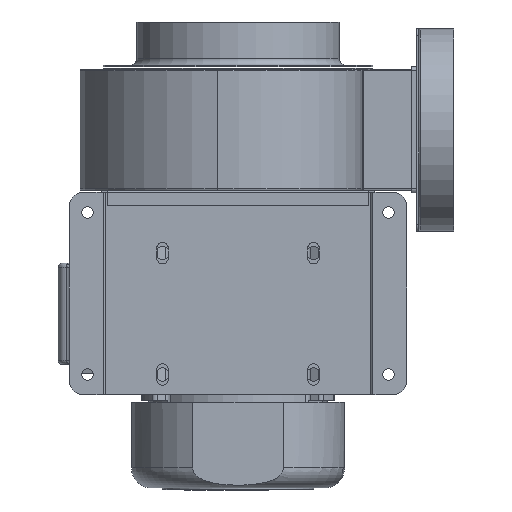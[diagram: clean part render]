
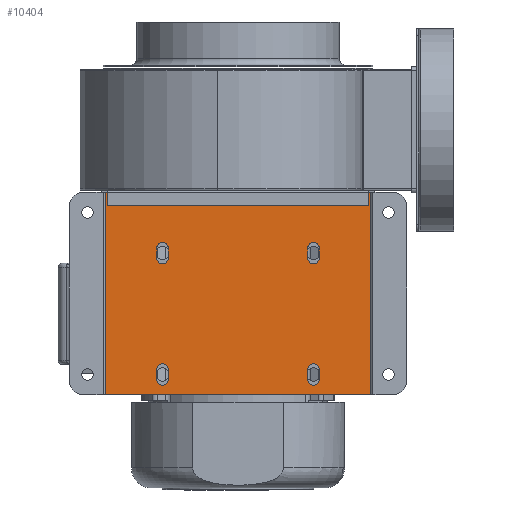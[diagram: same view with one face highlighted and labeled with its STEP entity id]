
A CAD part, front view. The second image highlights one B-rep face of the part: STEP entity #10404.
In plain terms, the highlighted planar face has unit normal (0, -1, 0).
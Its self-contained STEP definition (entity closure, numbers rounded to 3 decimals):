
#1314=LINE('',#20146,#1956);
#1324=LINE('',#20174,#1966);
#1331=LINE('',#20189,#1973);
#1336=LINE('',#20203,#1978);
#1339=LINE('',#20213,#1981);
#1344=LINE('',#20227,#1986);
#1347=LINE('',#20237,#1989);
#1352=LINE('',#20251,#1994);
#1357=LINE('',#20269,#1999);
#1360=LINE('',#20278,#2002);
#1371=LINE('',#20306,#2013);
#1375=LINE('',#20314,#2017);
#1376=LINE('',#20316,#2018);
#1377=LINE('',#20318,#2019);
#1956=VECTOR('',#13944,1000.);
#1966=VECTOR('',#13972,1000.);
#1973=VECTOR('',#13985,1000.);
#1978=VECTOR('',#13998,1000.);
#1981=VECTOR('',#14009,1000.);
#1986=VECTOR('',#14022,1000.);
#1989=VECTOR('',#14033,1000.);
#1994=VECTOR('',#14046,1000.);
#1999=VECTOR('',#14065,1000.);
#2002=VECTOR('',#14076,1000.);
#2013=VECTOR('',#14107,1000.);
#2017=VECTOR('',#14115,1000.);
#2018=VECTOR('',#14116,1000.);
#2019=VECTOR('',#14117,1000.);
#4891=ORIENTED_EDGE('',*,*,#6475,.T.);
#4892=ORIENTED_EDGE('',*,*,#6466,.T.);
#4893=ORIENTED_EDGE('',*,*,#6470,.T.);
#4894=ORIENTED_EDGE('',*,*,#6473,.T.);
#4895=ORIENTED_EDGE('',*,*,#6463,.T.);
#4896=ORIENTED_EDGE('',*,*,#6454,.T.);
#4897=ORIENTED_EDGE('',*,*,#6458,.T.);
#4898=ORIENTED_EDGE('',*,*,#6461,.T.);
#4899=ORIENTED_EDGE('',*,*,#6451,.T.);
#4900=ORIENTED_EDGE('',*,*,#6442,.T.);
#4901=ORIENTED_EDGE('',*,*,#6446,.T.);
#4902=ORIENTED_EDGE('',*,*,#6449,.T.);
#4903=ORIENTED_EDGE('',*,*,#6439,.T.);
#4904=ORIENTED_EDGE('',*,*,#6430,.T.);
#4905=ORIENTED_EDGE('',*,*,#6434,.T.);
#4906=ORIENTED_EDGE('',*,*,#6437,.T.);
#4907=ORIENTED_EDGE('',*,*,#6409,.F.);
#4908=ORIENTED_EDGE('',*,*,#6423,.F.);
#4909=ORIENTED_EDGE('',*,*,#6493,.T.);
#4910=ORIENTED_EDGE('',*,*,#6494,.T.);
#4911=ORIENTED_EDGE('',*,*,#6495,.T.);
#4912=ORIENTED_EDGE('',*,*,#6489,.T.);
#6409=EDGE_CURVE('',#7462,#7463,#1314,.T.);
#6423=EDGE_CURVE('',#7471,#7462,#1324,.T.);
#6430=EDGE_CURVE('',#7477,#7476,#1331,.T.);
#6434=EDGE_CURVE('',#7476,#7479,#8029,.T.);
#6437=EDGE_CURVE('',#7479,#7481,#1336,.T.);
#6439=EDGE_CURVE('',#7481,#7477,#8031,.T.);
#6442=EDGE_CURVE('',#7485,#7484,#1339,.T.);
#6446=EDGE_CURVE('',#7484,#7487,#8033,.T.);
#6449=EDGE_CURVE('',#7487,#7489,#1344,.T.);
#6451=EDGE_CURVE('',#7489,#7485,#8035,.T.);
#6454=EDGE_CURVE('',#7493,#7492,#1347,.T.);
#6458=EDGE_CURVE('',#7492,#7495,#8037,.T.);
#6461=EDGE_CURVE('',#7495,#7497,#1352,.T.);
#6463=EDGE_CURVE('',#7497,#7493,#8039,.T.);
#6466=EDGE_CURVE('',#7501,#7500,#8041,.T.);
#6470=EDGE_CURVE('',#7500,#7503,#1357,.T.);
#6473=EDGE_CURVE('',#7503,#7505,#8043,.T.);
#6475=EDGE_CURVE('',#7505,#7501,#1360,.T.);
#6489=EDGE_CURVE('',#7513,#7463,#1371,.T.);
#6493=EDGE_CURVE('',#7471,#7515,#1375,.T.);
#6494=EDGE_CURVE('',#7515,#7516,#1376,.T.);
#6495=EDGE_CURVE('',#7516,#7513,#1377,.T.);
#7462=VERTEX_POINT('',#20145);
#7463=VERTEX_POINT('',#20147);
#7471=VERTEX_POINT('',#20173);
#7476=VERTEX_POINT('',#20188);
#7477=VERTEX_POINT('',#20190);
#7479=VERTEX_POINT('',#20196);
#7481=VERTEX_POINT('',#20202);
#7484=VERTEX_POINT('',#20212);
#7485=VERTEX_POINT('',#20214);
#7487=VERTEX_POINT('',#20220);
#7489=VERTEX_POINT('',#20226);
#7492=VERTEX_POINT('',#20236);
#7493=VERTEX_POINT('',#20238);
#7495=VERTEX_POINT('',#20244);
#7497=VERTEX_POINT('',#20250);
#7500=VERTEX_POINT('',#20260);
#7501=VERTEX_POINT('',#20262);
#7503=VERTEX_POINT('',#20268);
#7505=VERTEX_POINT('',#20274);
#7513=VERTEX_POINT('',#20307);
#7515=VERTEX_POINT('',#20315);
#7516=VERTEX_POINT('',#20317);
#8029=CIRCLE('',#11440,4.25);
#8031=CIRCLE('',#11444,4.25);
#8033=CIRCLE('',#11448,4.25);
#8035=CIRCLE('',#11452,4.25);
#8037=CIRCLE('',#11456,4.25);
#8039=CIRCLE('',#11460,4.25);
#8041=CIRCLE('',#11463,4.25);
#8043=CIRCLE('',#11467,4.25);
#8788=EDGE_LOOP('',(#4891,#4892,#4893,#4894));
#8789=EDGE_LOOP('',(#4895,#4896,#4897,#4898));
#8790=EDGE_LOOP('',(#4899,#4900,#4901,#4902));
#8791=EDGE_LOOP('',(#4903,#4904,#4905,#4906));
#8792=EDGE_LOOP('',(#4907,#4908,#4909,#4910,#4911,#4912));
#9560=FACE_BOUND('',#8788,.T.);
#9561=FACE_BOUND('',#8789,.T.);
#9562=FACE_BOUND('',#8790,.T.);
#9563=FACE_BOUND('',#8791,.T.);
#9564=FACE_BOUND('',#8792,.T.);
#9816=PLANE('',#11480);
#10404=ADVANCED_FACE('',(#9560,#9561,#9562,#9563,#9564),#9816,.T.);
#11440=AXIS2_PLACEMENT_3D('',#20197,#13992,#13993);
#11444=AXIS2_PLACEMENT_3D('',#20206,#14003,#14004);
#11448=AXIS2_PLACEMENT_3D('',#20221,#14016,#14017);
#11452=AXIS2_PLACEMENT_3D('',#20230,#14027,#14028);
#11456=AXIS2_PLACEMENT_3D('',#20245,#14040,#14041);
#11460=AXIS2_PLACEMENT_3D('',#20254,#14051,#14052);
#11463=AXIS2_PLACEMENT_3D('',#20261,#14058,#14059);
#11467=AXIS2_PLACEMENT_3D('',#20275,#14071,#14072);
#11480=AXIS2_PLACEMENT_3D('',#20313,#14113,#14114);
#13944=DIRECTION('',(-1.,0.,0.));
#13972=DIRECTION('',(0.,0.,-1.));
#13985=DIRECTION('',(0.,0.,1.));
#13992=DIRECTION('',(0.,1.,0.));
#13993=DIRECTION('',(-1.,0.,0.));
#13998=DIRECTION('',(0.,0.,-1.));
#14003=DIRECTION('',(0.,1.,0.));
#14004=DIRECTION('',(1.,0.,0.));
#14009=DIRECTION('',(0.,0.,-1.));
#14016=DIRECTION('',(0.,1.,0.));
#14017=DIRECTION('',(1.,0.,0.));
#14022=DIRECTION('',(0.,0.,1.));
#14027=DIRECTION('',(0.,1.,0.));
#14028=DIRECTION('',(-1.,0.,0.));
#14033=DIRECTION('',(0.,0.,-1.));
#14040=DIRECTION('',(0.,1.,0.));
#14041=DIRECTION('',(1.,0.,0.));
#14046=DIRECTION('',(0.,0.,1.));
#14051=DIRECTION('',(0.,1.,0.));
#14052=DIRECTION('',(-1.,0.,0.));
#14058=DIRECTION('',(0.,1.,0.));
#14059=DIRECTION('',(1.,0.,0.));
#14065=DIRECTION('',(0.,0.,1.));
#14071=DIRECTION('',(0.,1.,0.));
#14072=DIRECTION('',(-1.,0.,0.));
#14076=DIRECTION('',(0.,0.,-1.));
#14107=DIRECTION('',(0.,0.,-1.));
#14113=DIRECTION('',(0.,-1.,0.));
#14114=DIRECTION('',(0.,0.,1.));
#14115=DIRECTION('',(-1.,0.,0.));
#14116=DIRECTION('',(-1.,0.,0.));
#14117=DIRECTION('',(-1.,0.,0.));
#20145=CARTESIAN_POINT('',(98.5,-72.5,-241.));
#20146=CARTESIAN_POINT('',(98.5,-72.5,-241.));
#20147=CARTESIAN_POINT('',(-98.5,-72.5,-241.));
#20173=CARTESIAN_POINT('',(98.5,-72.5,-91.));
#20174=CARTESIAN_POINT('',(98.5,-72.5,-91.));
#20188=CARTESIAN_POINT('',(51.75,-72.5,-132.25));
#20189=CARTESIAN_POINT('',(51.75,-72.5,-139.75));
#20190=CARTESIAN_POINT('',(51.75,-72.5,-139.75));
#20196=CARTESIAN_POINT('',(60.25,-72.5,-132.25));
#20197=CARTESIAN_POINT('',(56.,-72.5,-132.25));
#20202=CARTESIAN_POINT('',(60.25,-72.5,-139.75));
#20203=CARTESIAN_POINT('',(60.25,-72.5,-132.25));
#20206=CARTESIAN_POINT('',(56.,-72.5,-139.75));
#20212=CARTESIAN_POINT('',(-51.75,-72.5,-139.75));
#20213=CARTESIAN_POINT('',(-51.75,-72.5,-132.25));
#20214=CARTESIAN_POINT('',(-51.75,-72.5,-132.25));
#20220=CARTESIAN_POINT('',(-60.25,-72.5,-139.75));
#20221=CARTESIAN_POINT('',(-56.,-72.5,-139.75));
#20226=CARTESIAN_POINT('',(-60.25,-72.5,-132.25));
#20227=CARTESIAN_POINT('',(-60.25,-72.5,-139.75));
#20230=CARTESIAN_POINT('',(-56.,-72.5,-132.25));
#20236=CARTESIAN_POINT('',(-51.75,-72.5,-229.75));
#20237=CARTESIAN_POINT('',(-51.75,-72.5,-222.25));
#20238=CARTESIAN_POINT('',(-51.75,-72.5,-222.25));
#20244=CARTESIAN_POINT('',(-60.25,-72.5,-229.75));
#20245=CARTESIAN_POINT('',(-56.,-72.5,-229.75));
#20250=CARTESIAN_POINT('',(-60.25,-72.5,-222.25));
#20251=CARTESIAN_POINT('',(-60.25,-72.5,-229.75));
#20254=CARTESIAN_POINT('',(-56.,-72.5,-222.25));
#20260=CARTESIAN_POINT('',(51.75,-72.5,-229.75));
#20261=CARTESIAN_POINT('',(56.,-72.5,-229.75));
#20262=CARTESIAN_POINT('',(60.25,-72.5,-229.75));
#20268=CARTESIAN_POINT('',(51.75,-72.5,-222.25));
#20269=CARTESIAN_POINT('',(51.75,-72.5,-229.75));
#20274=CARTESIAN_POINT('',(60.25,-72.5,-222.25));
#20275=CARTESIAN_POINT('',(56.,-72.5,-222.25));
#20278=CARTESIAN_POINT('',(60.25,-72.5,-222.25));
#20306=CARTESIAN_POINT('',(-98.5,-72.5,-91.));
#20307=CARTESIAN_POINT('',(-98.5,-72.5,-91.));
#20313=CARTESIAN_POINT('',(98.5,-72.5,-91.));
#20314=CARTESIAN_POINT('',(98.5,-72.5,-91.));
#20315=CARTESIAN_POINT('',(30.,-72.5,-91.));
#20316=CARTESIAN_POINT('',(98.5,-72.5,-91.));
#20317=CARTESIAN_POINT('',(-30.,-72.5,-91.));
#20318=CARTESIAN_POINT('',(98.5,-72.5,-91.));
